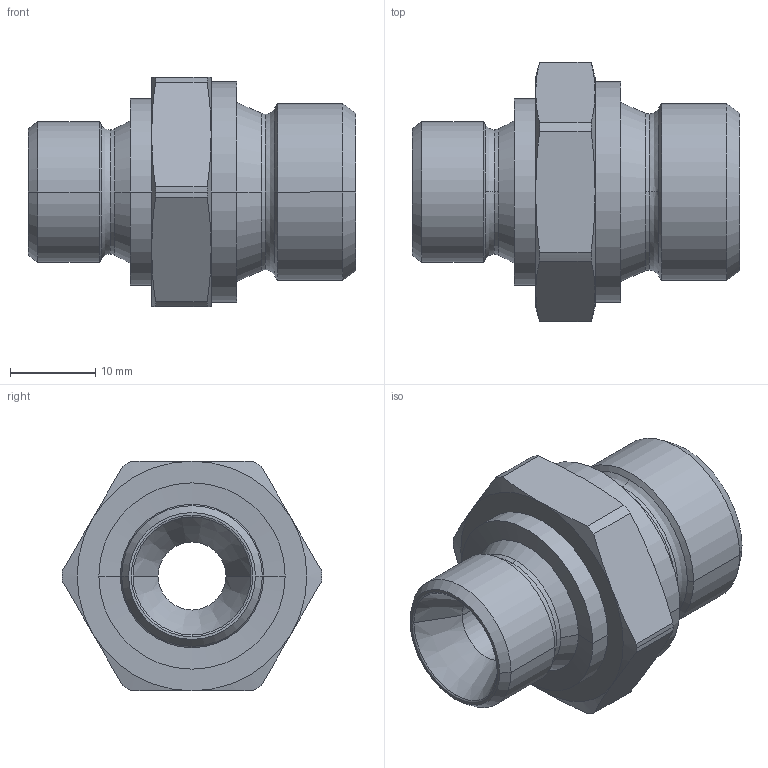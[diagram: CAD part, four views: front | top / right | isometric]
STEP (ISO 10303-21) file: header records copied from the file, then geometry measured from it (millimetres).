
FILE_DESCRIPTION((''),'2;1');
FILE_NAME('300509.stp','2006-09-11T08:09:54',(''),(''),'AutoCAD STEP 2000i','AutoCAD 2000i',', , ');
FILE_SCHEMA(('CONFIG_CONTROL_DESIGN'));
Length unit declared in the file: millimetre
Products named in the file (2): 300509.0; CHIAVE SMUSSATA#0
Assembly tree (1 placements, depth 2):
  300509.0
    CHIAVE SMUSSATA#0
Bounding box: 38.5 x 30.5 x 27 mm (x, y, z)
Volume: 10361.1 mm3; surface area: 4765.1 mm2
Topology: 1 solids, 1 shells, 76 faces, 178 edges, 106 vertices
Faces by surface type: cone 34, cylinder 20, plane 10, bspline 8, torus 4
Entity records: 2593 total; most frequent: CARTESIAN_POINT 762, DIRECTION 400, ORIENTED_EDGE 356, EDGE_CURVE 178, AXIS2_PLACEMENT_3D 176, VERTEX_POINT 106, CIRCLE 106, EDGE_LOOP 80
